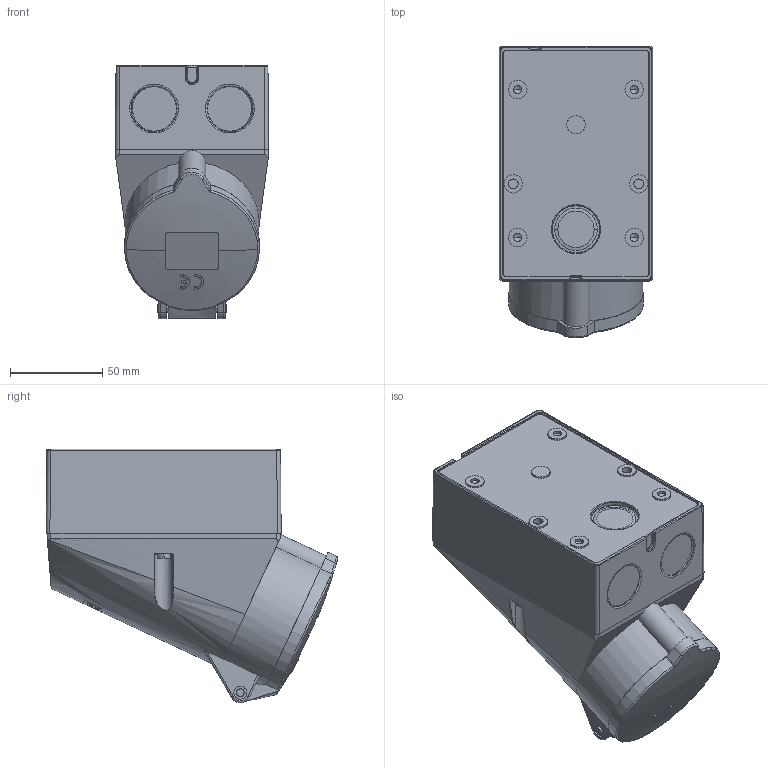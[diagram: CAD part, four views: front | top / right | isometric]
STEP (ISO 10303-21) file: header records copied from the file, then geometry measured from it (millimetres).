
FILE_DESCRIPTION((''),'2;1');
FILE_NAME('1109510_ASM_SW0002','2017-11-27T',('gisse'),('MENNEKES'),'PRO/ENGINEER BY PARAMETRIC TECHNOLOGY CORPORATION, 2015440','PRO/ENGINEER BY PARAMETRIC TECHNOLOGY CORPORATION, 2015440','');
FILE_SCHEMA(('AUTOMOTIVE_DESIGN { 1 0 10303 214 1 1 1 1 }'));
Length unit declared in the file: millimetre
Products named in the file (1): 1109510_ASM_SW0002
Bounding box: 83 x 157.87 x 137.27 mm (x, y, z)
Volume: 1018592.3 mm3; surface area: 69484.2 mm2
Topology: 2 solids, 2 shells, 827 faces, 2207 edges, 1424 vertices
Faces by surface type: plane 306, extrusion 214, cylinder 113, bspline 110, cone 56, torus 20, sphere 8
Entity records: 43316 total; most frequent: CARTESIAN_POINT 15098, ORIENTED_EDGE 4390, DIRECTION 2635, EDGE_CURVE 2195, FILL_AREA_STYLE_COLOUR 1443, FILL_AREA_STYLE 1443, SURFACE_STYLE_FILL_AREA 1443, SURFACE_SIDE_STYLE 1443
